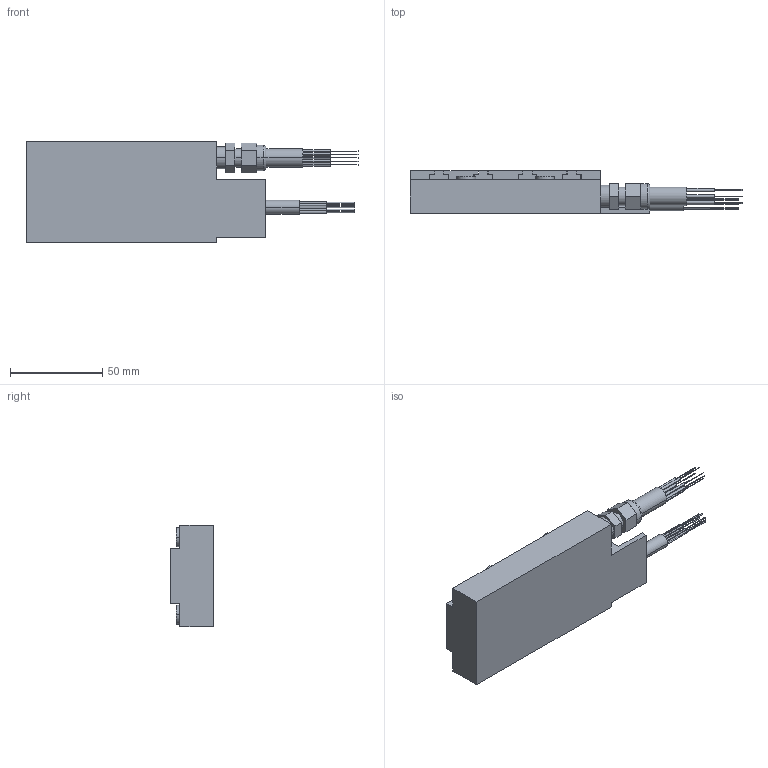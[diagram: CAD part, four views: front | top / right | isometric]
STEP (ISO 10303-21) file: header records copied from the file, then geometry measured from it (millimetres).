
FILE_DESCRIPTION((''),'2;1');
FILE_NAME('ICD05-030','2007-01-14T',('saurabh.singhal'),(''),'PRO/ENGINEER BY PARAMETRIC TECHNOLOGY CORPORATION, 2005450','PRO/ENGINEER BY PARAMETRIC TECHNOLOGY CORPORATION, 2005450','');
FILE_SCHEMA(('CONFIG_CONTROL_DESIGN'));
Length unit declared in the file: millimetre
Products named in the file (1): ICD05-030
Bounding box: 180.3 x 23.2 x 55 mm (x, y, z)
Volume: 133723.1 mm3; surface area: 28992.8 mm2
Topology: 1 solids, 13 shells, 329 faces, 781 edges, 505 vertices
Faces by surface type: plane 167, cylinder 136, cone 24, torus 2
Entity records: 9414 total; most frequent: DIRECTION 1721, CARTESIAN_POINT 1592, ORIENTED_EDGE 1466, EDGE_CURVE 757, AXIS2_PLACEMENT_3D 634, VERTEX_POINT 505, VECTOR 453, LINE 453
